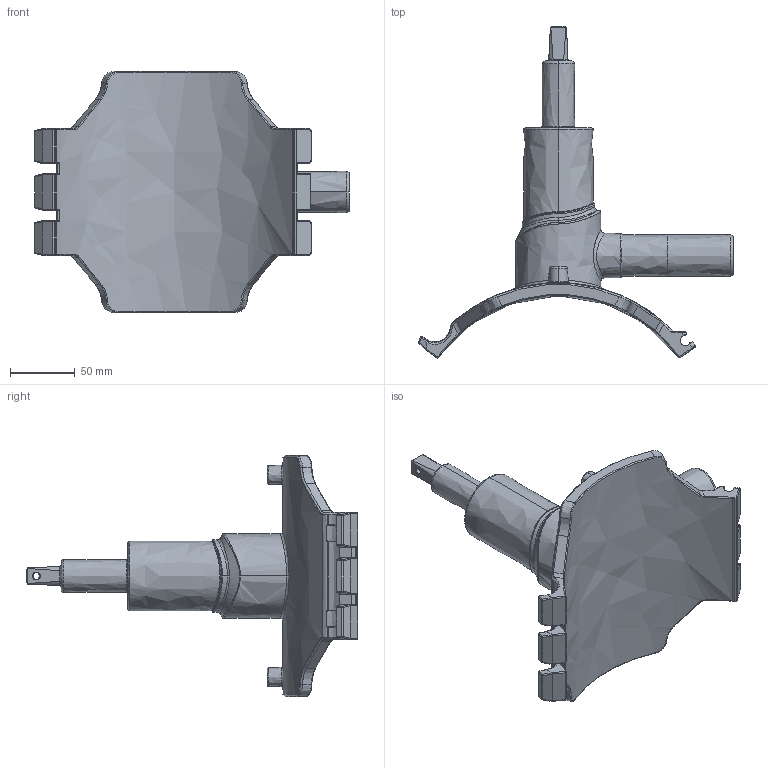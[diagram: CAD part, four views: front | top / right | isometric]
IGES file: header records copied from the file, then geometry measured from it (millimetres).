
Start section:  PTC IGES file: dav2_d225_32_01.igs
Global section: file name: dav2_d225_32_01.igs; native system: Creo Parametric by PTC Inc.; preprocessor: 2019030; author: demmerls; organization: Unknown; date: 20201126.122653; units: millimetre
Bounding box: 242.83 x 256.06 x 186 mm (x, y, z)
Surface area: 123105.3 mm2 (no closed solid volume)
Topology: 0 solids, 0 shells, 571 faces, 2788 edges, 2782 vertices
Faces by surface type: bspline 571
